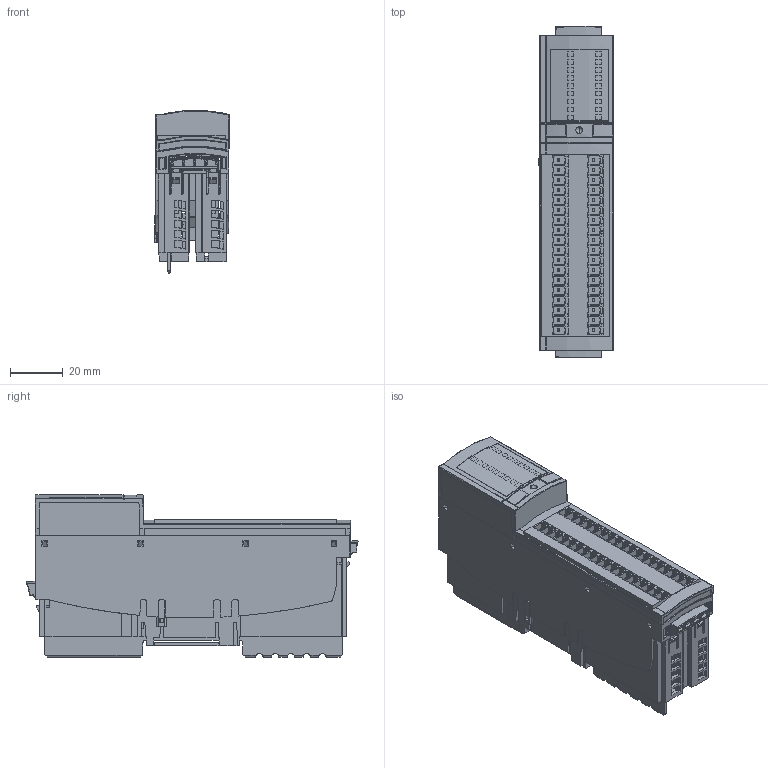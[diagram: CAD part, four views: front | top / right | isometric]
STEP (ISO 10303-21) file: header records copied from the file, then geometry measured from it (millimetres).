
FILE_DESCRIPTION((''),'2;1');
FILE_NAME('31006025_ASM','2018-05-29T',('SESA42808'),('Schneider-Electric'),'PRO/ENGINEER BY PARAMETRIC TECHNOLOGY CORPORATION, 2015440','PRO/ENGINEER BY PARAMETRIC TECHNOLOGY CORPORATION, 2015440','');
FILE_SCHEMA(('CONFIG_CONTROL_DESIGN'));
Products named in the file (15): STB_T3_BOITIER; 31006023; 1PHC0034456; 31006029-BASE; 31006029-LOWER-PIN; 31006029-UPPER-PIN; 31006029-HEADER; 31006029_ASM; 31006027; 31006028; 31005893_ASM; 31006026; STB_DETROMPAGE; 31006010-FORMED; 31006025_ASM
Assembly tree (65 placements, depth 4):
  31006025_ASM
    STB_T3_BOITIER
    31005893_ASM
      31006023
      1PHC0034456  x18
      31006029_ASM
        31006029-BASE
        31006029-LOWER-PIN  x18
        31006029-UPPER-PIN  x18
        31006029-HEADER
      31006027
      31006028
    31006026
    STB_DETROMPAGE
    31006010-FORMED
Bounding box: 28.4 x 126.43 x 61.87 mm (x, y, z)
Volume: 49501.2 mm3; surface area: 85400 mm2
Topology: 63 solids, 63 shells, 6123 faces, 17071 edges, 11068 vertices
Faces by surface type: plane 4712, cylinder 983, cone 247, bspline 139, torus 25, sphere 17
Entity records: 179024 total; most frequent: CARTESIAN_POINT 46873, ORIENTED_EDGE 29578, DIRECTION 24001, EDGE_CURVE 14789, VECTOR 11377, LINE 11377, VERTEX_POINT 9640, AXIS2_PLACEMENT_3D 6312
